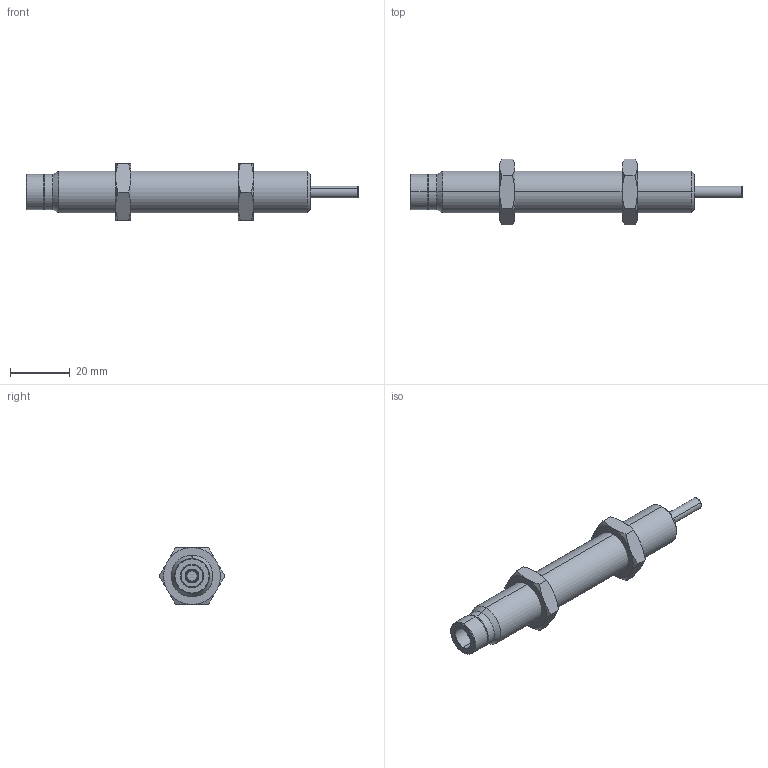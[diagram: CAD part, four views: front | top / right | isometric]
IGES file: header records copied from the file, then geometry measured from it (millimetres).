
Start section: SolidWorks IGES file using analytic representation for surfaces
Global section: file name: D:\IGS跡宒\AC1416-N.IGS,1; native system: 5HSolidWorks 2013; preprocessor: SolidWorks 2013; author: Administrator; date: 160406.151834; units: inch
Bounding box: 111 x 21.94 x 19 mm (x, y, z)
Surface area: 6753.7 mm2 (no closed solid volume)
Topology: 0 solids, 0 shells, 84 faces, 1248 edges, 1248 vertices
Faces by surface type: revolution 62, bspline 22
